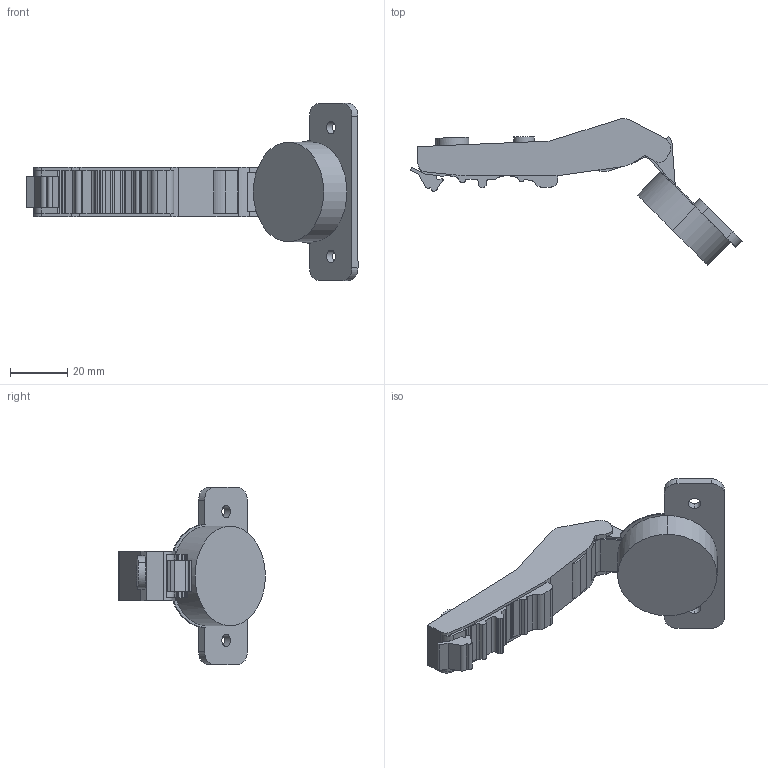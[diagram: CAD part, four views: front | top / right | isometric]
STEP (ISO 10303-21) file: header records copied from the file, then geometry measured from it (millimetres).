
FILE_DESCRIPTION (( 'STEP AP214' ), '1' );
FILE_NAME ('C82W675FA-Open.STEP', '2025-07-21T05:39:09', ( '微软用户' ), ( '微软中国' ), 'SwSTEP 2.0', 'SolidWorks 2021', '' );
FILE_SCHEMA (( 'AUTOMOTIVE_DESIGN' ));
Length unit declared in the file: millimetre
Products named in the file (1): C82W675FA-Open
Bounding box: 116.16 x 51.35 x 61.96 mm (x, y, z)
Volume: 35777.4 mm3; surface area: 11686 mm2
Topology: 1 solids, 1 shells, 160 faces, 457 edges, 302 vertices
Faces by surface type: plane 83, cylinder 77
Entity records: 5306 total; most frequent: CARTESIAN_POINT 941, DIRECTION 937, ORIENTED_EDGE 914, EDGE_CURVE 457, AXIS2_PLACEMENT_3D 326, VERTEX_POINT 302, VECTOR 285, LINE 285
